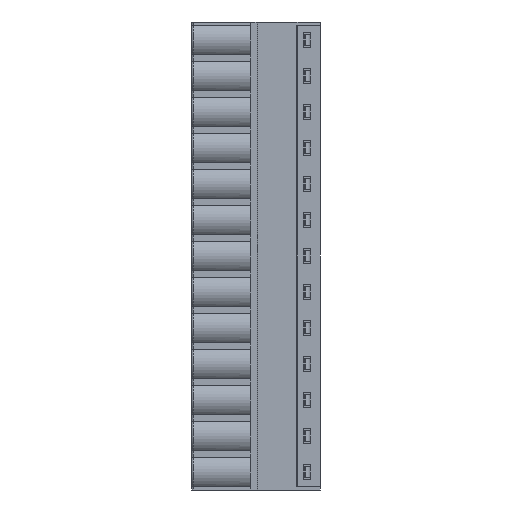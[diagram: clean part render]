
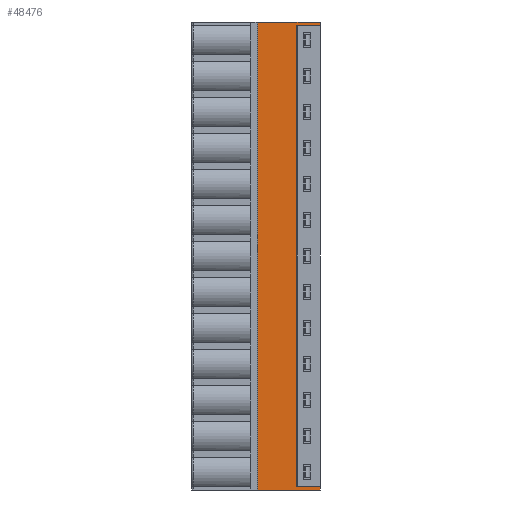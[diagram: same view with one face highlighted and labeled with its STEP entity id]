
A CAD part, left-side view. The second image highlights one B-rep face of the part: STEP entity #48476.
In plain terms, the highlighted planar face has unit normal (-1, 0, 0).
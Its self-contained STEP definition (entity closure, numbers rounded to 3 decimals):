
#161 = VERTEX_POINT ( 'NONE', #46495 ) ;
#776 = ORIENTED_EDGE ( 'NONE', *, *, #8502, .F. ) ;
#920 = CARTESIAN_POINT ( 'NONE',  ( -3.9, 0., 0. ) ) ;
#2061 = VECTOR ( 'NONE', #41629, 1000. ) ;
#2700 = CARTESIAN_POINT ( 'NONE',  ( -3.9, 8.8, 0. ) ) ;
#2720 = LINE ( 'NONE', #19193, #4723 ) ;
#3432 = VERTEX_POINT ( 'NONE', #4602 ) ;
#3731 = CARTESIAN_POINT ( 'NONE',  ( -3.9, 3.167, 65.548 ) ) ;
#3795 = CARTESIAN_POINT ( 'NONE',  ( -3.9, 8.8, 66.04 ) ) ;
#3967 = CARTESIAN_POINT ( 'NONE',  ( -3.9, 3.3, 65.548 ) ) ;
#4018 = B_SPLINE_CURVE_WITH_KNOTS ( 'NONE', 3,
 ( #16542, #32974, #28925, #45366 ),
 .UNSPECIFIED., .F., .F.,
 ( 4, 4 ),
 ( 0., 1. ),
 .UNSPECIFIED. ) ;
#4602 = CARTESIAN_POINT ( 'NONE',  ( -3.9, 3.3, 0.492 ) ) ;
#4723 = VECTOR ( 'NONE', #23495, 1000. ) ;
#5514 = VERTEX_POINT ( 'NONE', #19495 ) ;
#5888 = CARTESIAN_POINT ( 'NONE',  ( -3.9, 2.9, 0.49 ) ) ;
#7557 = CARTESIAN_POINT ( 'NONE',  ( -3.9, 0., 65.55 ) ) ;
#8502 = EDGE_CURVE ( 'NONE', #28604, #161, #19171, .T. ) ;
#8625 = DIRECTION ( 'NONE',  ( 0., 0., -1. ) ) ;
#10741 = ORIENTED_EDGE ( 'NONE', *, *, #51286, .F. ) ;
#11307 = VECTOR ( 'NONE', #43154, 1000. ) ;
#14596 = CARTESIAN_POINT ( 'NONE',  ( -3.9, 1.933, 65.55 ) ) ;
#14618 = CARTESIAN_POINT ( 'NONE',  ( -3.9, 8.9, 0. ) ) ;
#14858 = EDGE_CURVE ( 'NONE', #25130, #29206, #20111, .T. ) ;
#16542 = CARTESIAN_POINT ( 'NONE',  ( -3.9, 2.9, 0.49 ) ) ;
#16567 = B_SPLINE_CURVE_WITH_KNOTS ( 'NONE', 3,
 ( #26392, #33942, #21557, #5888 ),
 .UNSPECIFIED., .F., .F.,
 ( 4, 4 ),
 ( 0., 1. ),
 .UNSPECIFIED. ) ;
#16727 = CARTESIAN_POINT ( 'NONE',  ( -3.9, 8.8, 66.04 ) ) ;
#18578 = VERTEX_POINT ( 'NONE', #45333 ) ;
#18698 = EDGE_LOOP ( 'NONE', ( #22463, #49698, #10741, #21733, #35122, #47501, #39917, #776, #22254, #41554 ) ) ;
#18898 = CARTESIAN_POINT ( 'NONE',  ( -3.9, 0., 66.04 ) ) ;
#18927 = DIRECTION ( 'NONE',  ( 0., 0., 1. ) ) ;
#19171 = LINE ( 'NONE', #18898, #11307 ) ;
#19172 = DIRECTION ( 'NONE',  ( 0., -1., 0. ) ) ;
#19193 = CARTESIAN_POINT ( 'NONE',  ( -3.9, 0., 0.49 ) ) ;
#19459 = DIRECTION ( 'NONE',  ( 0., -1., 0. ) ) ;
#19495 = CARTESIAN_POINT ( 'NONE',  ( -3.9, 2.9, 0.49 ) ) ;
#20111 = B_SPLINE_CURVE_WITH_KNOTS ( 'NONE', 3,
 ( #52827, #3731, #40394, #20195 ),
 .UNSPECIFIED., .F., .F.,
 ( 4, 4 ),
 ( 0., 1. ),
 .UNSPECIFIED. ) ;
#20195 = CARTESIAN_POINT ( 'NONE',  ( -3.9, 2.9, 65.55 ) ) ;
#21350 = B_SPLINE_CURVE_WITH_KNOTS ( 'NONE', 3,
 ( #22942, #14596, #23208, #7557 ),
 .UNSPECIFIED., .F., .F.,
 ( 4, 4 ),
 ( 0., 1. ),
 .UNSPECIFIED. ) ;
#21445 = EDGE_CURVE ( 'NONE', #18578, #22455, #2720, .T. ) ;
#21557 = CARTESIAN_POINT ( 'NONE',  ( -3.9, 3.033, 0.491 ) ) ;
#21733 = ORIENTED_EDGE ( 'NONE', *, *, #39738, .F. ) ;
#22254 = ORIENTED_EDGE ( 'NONE', *, *, #48592, .F. ) ;
#22455 = VERTEX_POINT ( 'NONE', #920 ) ;
#22463 = ORIENTED_EDGE ( 'NONE', *, *, #28706, .T. ) ;
#22893 = VECTOR ( 'NONE', #19172, 1000. ) ;
#22942 = CARTESIAN_POINT ( 'NONE',  ( -3.9, 2.9, 65.55 ) ) ;
#22968 = DIRECTION ( 'NONE',  ( -1., 0., 0. ) ) ;
#23208 = CARTESIAN_POINT ( 'NONE',  ( -3.9, 0.967, 65.55 ) ) ;
#23495 = DIRECTION ( 'NONE',  ( 0., 0., -1. ) ) ;
#24418 = VERTEX_POINT ( 'NONE', #50717 ) ;
#25130 = VERTEX_POINT ( 'NONE', #3967 ) ;
#25601 = EDGE_CURVE ( 'NONE', #25130, #3432, #29511, .T. ) ;
#26392 = CARTESIAN_POINT ( 'NONE',  ( -3.9, 3.3, 0.492 ) ) ;
#28604 = VERTEX_POINT ( 'NONE', #31024 ) ;
#28706 = EDGE_CURVE ( 'NONE', #34707, #22455, #39623, .T. ) ;
#28925 = CARTESIAN_POINT ( 'NONE',  ( -3.9, 0.967, 0.49 ) ) ;
#29206 = VERTEX_POINT ( 'NONE', #44896 ) ;
#29511 = LINE ( 'NONE', #45683, #2061 ) ;
#31024 = CARTESIAN_POINT ( 'NONE',  ( -3.9, 0., 66.04 ) ) ;
#31172 = EDGE_CURVE ( 'NONE', #24418, #34707, #53410, .T. ) ;
#31734 = VECTOR ( 'NONE', #19459, 1000. ) ;
#32974 = CARTESIAN_POINT ( 'NONE',  ( -3.9, 1.933, 0.49 ) ) ;
#33942 = CARTESIAN_POINT ( 'NONE',  ( -3.9, 3.167, 0.492 ) ) ;
#34707 = VERTEX_POINT ( 'NONE', #35632 ) ;
#35122 = ORIENTED_EDGE ( 'NONE', *, *, #25601, .F. ) ;
#35632 = CARTESIAN_POINT ( 'NONE',  ( -3.9, 8.8, 0. ) ) ;
#39623 = LINE ( 'NONE', #2700, #22893 ) ;
#39738 = EDGE_CURVE ( 'NONE', #3432, #5514, #16567, .T. ) ;
#39917 = ORIENTED_EDGE ( 'NONE', *, *, #46225, .T. ) ;
#40394 = CARTESIAN_POINT ( 'NONE',  ( -3.9, 3.033, 65.549 ) ) ;
#41554 = ORIENTED_EDGE ( 'NONE', *, *, #31172, .T. ) ;
#41629 = DIRECTION ( 'NONE',  ( 0., 0., -1. ) ) ;
#43154 = DIRECTION ( 'NONE',  ( 0., 0., -1. ) ) ;
#43439 = FACE_OUTER_BOUND ( 'NONE', #18698, .T. ) ;
#44896 = CARTESIAN_POINT ( 'NONE',  ( -3.9, 2.9, 65.55 ) ) ;
#45333 = CARTESIAN_POINT ( 'NONE',  ( -3.9, 0., 0.49 ) ) ;
#45366 = CARTESIAN_POINT ( 'NONE',  ( -3.9, 0., 0.49 ) ) ;
#45683 = CARTESIAN_POINT ( 'NONE',  ( -3.9, 3.3, 65.548 ) ) ;
#46225 = EDGE_CURVE ( 'NONE', #29206, #161, #21350, .T. ) ;
#46495 = CARTESIAN_POINT ( 'NONE',  ( -3.9, 0., 65.55 ) ) ;
#47501 = ORIENTED_EDGE ( 'NONE', *, *, #14858, .T. ) ;
#47760 = LINE ( 'NONE', #3795, #31734 ) ;
#48476 = ADVANCED_FACE ( 'NONE', ( #43439 ), #51831, .T. ) ;
#48592 = EDGE_CURVE ( 'NONE', #24418, #28604, #47760, .T. ) ;
#48920 = VECTOR ( 'NONE', #8625, 1000. ) ;
#49698 = ORIENTED_EDGE ( 'NONE', *, *, #21445, .F. ) ;
#50717 = CARTESIAN_POINT ( 'NONE',  ( -3.9, 8.8, 66.04 ) ) ;
#50771 = AXIS2_PLACEMENT_3D ( 'NONE', #14618, #22968, #18927 ) ;
#51286 = EDGE_CURVE ( 'NONE', #5514, #18578, #4018, .T. ) ;
#51831 = PLANE ( 'NONE',  #50771 ) ;
#52827 = CARTESIAN_POINT ( 'NONE',  ( -3.9, 3.3, 65.548 ) ) ;
#53410 = LINE ( 'NONE', #16727, #48920 ) ;
